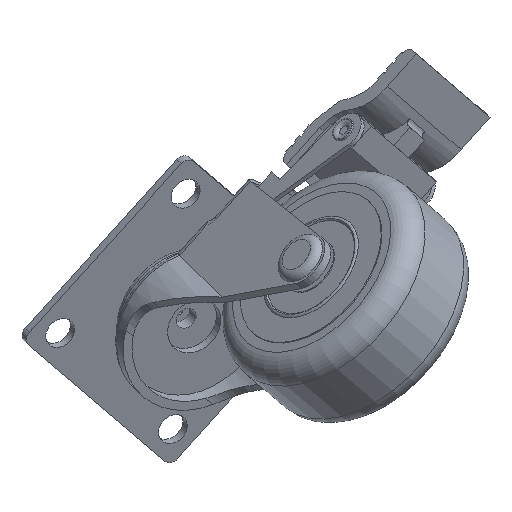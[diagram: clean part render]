
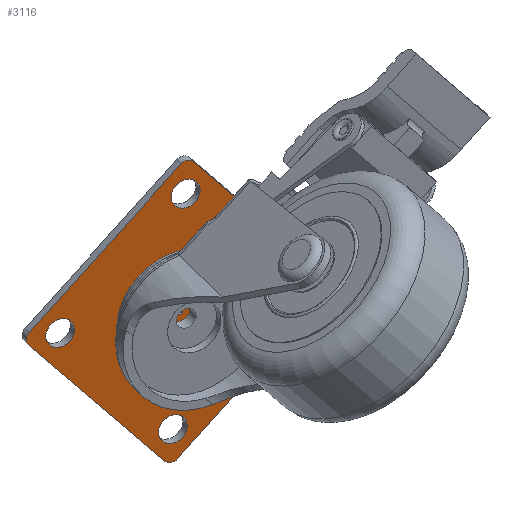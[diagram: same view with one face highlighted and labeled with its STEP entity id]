
A CAD part, top view. The second image highlights one B-rep face of the part: STEP entity #3116.
In plain terms, the highlighted planar face has unit normal (0.439, -0.433, 0.787) as drawn and (0, 0, 1) by its records, which use the part's own axes.
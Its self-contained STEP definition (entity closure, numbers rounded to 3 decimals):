
#288=LINE($,#5580,#516);
#291=LINE($,#5588,#519);
#294=LINE($,#5596,#522);
#297=LINE($,#5603,#525);
#516=VECTOR($,#4420,46.);
#519=VECTOR($,#4429,46.);
#522=VECTOR($,#4438,46.);
#525=VECTOR($,#4447,46.);
#720=PLANE($,#3493);
#850=FACE_BOUND($,#1281,.T.);
#851=FACE_BOUND($,#1282,.T.);
#852=FACE_BOUND($,#1283,.T.);
#853=FACE_BOUND($,#1284,.T.);
#854=FACE_BOUND($,#1285,.T.);
#855=FACE_BOUND($,#1286,.T.);
#1281=EDGE_LOOP($,(#2888));
#1282=EDGE_LOOP($,(#2889));
#1283=EDGE_LOOP($,(#2890));
#1284=EDGE_LOOP($,(#2891));
#1285=EDGE_LOOP($,(#2892));
#1286=EDGE_LOOP($,(#2893,#2894,#2895,#2896,#2897,#2898,#2899,#2900));
#1407=CIRCLE($,#3443,0.774);
#1426=CIRCLE($,#3474,3.25);
#1427=CIRCLE($,#3476,3.25);
#1428=CIRCLE($,#3478,3.25);
#1429=CIRCLE($,#3480,3.25);
#1430=CIRCLE($,#3482,2.);
#1431=CIRCLE($,#3485,2.);
#1432=CIRCLE($,#3488,2.);
#1433=CIRCLE($,#3491,2.);
#1687=VERTEX_POINT($,#5503);
#1710=VERTEX_POINT($,#5561);
#1711=VERTEX_POINT($,#5564);
#1712=VERTEX_POINT($,#5567);
#1713=VERTEX_POINT($,#5570);
#1714=VERTEX_POINT($,#5573);
#1715=VERTEX_POINT($,#5575);
#1716=VERTEX_POINT($,#5579);
#1717=VERTEX_POINT($,#5583);
#1718=VERTEX_POINT($,#5587);
#1719=VERTEX_POINT($,#5591);
#1720=VERTEX_POINT($,#5595);
#1721=VERTEX_POINT($,#5599);
#2072=EDGE_CURVE($,#1687,#1687,#1407,.T.);
#2095=EDGE_CURVE($,#1710,#1710,#1426,.T.);
#2096=EDGE_CURVE($,#1711,#1711,#1427,.T.);
#2097=EDGE_CURVE($,#1712,#1712,#1428,.T.);
#2098=EDGE_CURVE($,#1713,#1713,#1429,.T.);
#2100=EDGE_CURVE($,#1715,#1714,#1430,.T.);
#2102=EDGE_CURVE($,#1716,#1715,#288,.T.);
#2104=EDGE_CURVE($,#1717,#1716,#1431,.T.);
#2106=EDGE_CURVE($,#1718,#1717,#291,.T.);
#2108=EDGE_CURVE($,#1719,#1718,#1432,.T.);
#2110=EDGE_CURVE($,#1720,#1719,#294,.T.);
#2112=EDGE_CURVE($,#1721,#1720,#1433,.T.);
#2114=EDGE_CURVE($,#1714,#1721,#297,.T.);
#2888=ORIENTED_EDGE($,*,*,#2072,.T.);
#2889=ORIENTED_EDGE($,*,*,#2095,.T.);
#2890=ORIENTED_EDGE($,*,*,#2096,.T.);
#2891=ORIENTED_EDGE($,*,*,#2097,.T.);
#2892=ORIENTED_EDGE($,*,*,#2098,.T.);
#2893=ORIENTED_EDGE($,*,*,#2114,.T.);
#2894=ORIENTED_EDGE($,*,*,#2112,.T.);
#2895=ORIENTED_EDGE($,*,*,#2110,.T.);
#2896=ORIENTED_EDGE($,*,*,#2108,.T.);
#2897=ORIENTED_EDGE($,*,*,#2106,.T.);
#2898=ORIENTED_EDGE($,*,*,#2104,.T.);
#2899=ORIENTED_EDGE($,*,*,#2102,.T.);
#2900=ORIENTED_EDGE($,*,*,#2100,.T.);
#3116=ADVANCED_FACE($,(#850,#851,#852,#853,#854,#855),#720,.T.);
#3443=AXIS2_PLACEMENT_3D($,#5504,#4332,#4333);
#3474=AXIS2_PLACEMENT_3D($,#5562,#4398,#4399);
#3476=AXIS2_PLACEMENT_3D($,#5565,#4402,#4403);
#3478=AXIS2_PLACEMENT_3D($,#5568,#4406,#4407);
#3480=AXIS2_PLACEMENT_3D($,#5571,#4410,#4411);
#3482=AXIS2_PLACEMENT_3D($,#5576,#4415,#4416);
#3485=AXIS2_PLACEMENT_3D($,#5584,#4424,#4425);
#3488=AXIS2_PLACEMENT_3D($,#5592,#4433,#4434);
#3491=AXIS2_PLACEMENT_3D($,#5600,#4442,#4443);
#3493=AXIS2_PLACEMENT_3D($,#5604,#4448,#4449);
#4332=DIRECTION('center_axis',(0.,0.,-1.));
#4333=DIRECTION('ref_axis',(-1.,0.,0.));
#4398=DIRECTION('center_axis',(0.,0.,-1.));
#4399=DIRECTION('ref_axis',(-1.,0.,0.));
#4402=DIRECTION('center_axis',(0.,0.,-1.));
#4403=DIRECTION('ref_axis',(-1.,0.,0.));
#4406=DIRECTION('center_axis',(0.,0.,-1.));
#4407=DIRECTION('ref_axis',(-1.,0.,0.));
#4410=DIRECTION('center_axis',(0.,0.,-1.));
#4411=DIRECTION('ref_axis',(-1.,0.,0.));
#4415=DIRECTION('center_axis',(0.,0.,1.));
#4416=DIRECTION('ref_axis',(-1.,0.,0.));
#4420=DIRECTION($,(0.,1.,0.));
#4424=DIRECTION('center_axis',(0.,0.,1.));
#4425=DIRECTION('ref_axis',(0.,1.,0.));
#4429=DIRECTION($,(1.,0.,0.));
#4433=DIRECTION('center_axis',(0.,0.,1.));
#4434=DIRECTION('ref_axis',(1.,0.,0.));
#4438=DIRECTION($,(0.,-1.,0.));
#4442=DIRECTION('center_axis',(0.,0.,1.));
#4443=DIRECTION('ref_axis',(0.,-1.,0.));
#4447=DIRECTION($,(-1.,0.,0.));
#4448=DIRECTION('center_axis',(0.,0.,1.));
#4449=DIRECTION('ref_axis',(1.,0.,0.));
#5503=CARTESIAN_POINT('',(26.,25.395,2.));
#5504=CARTESIAN_POINT('Origin',(25.226,25.395,2.));
#5561=CARTESIAN_POINT('',(47.476,44.395,2.));
#5562=CARTESIAN_POINT('Origin',(44.226,44.395,2.));
#5564=CARTESIAN_POINT('',(47.476,6.395,2.));
#5565=CARTESIAN_POINT('Origin',(44.226,6.395,2.));
#5567=CARTESIAN_POINT('',(9.476,6.395,2.));
#5568=CARTESIAN_POINT('Origin',(6.226,6.395,2.));
#5570=CARTESIAN_POINT('',(9.476,44.395,2.));
#5571=CARTESIAN_POINT('Origin',(6.226,44.395,2.));
#5573=CARTESIAN_POINT('',(48.226,50.395,2.));
#5575=CARTESIAN_POINT('',(50.226,48.395,2.));
#5576=CARTESIAN_POINT('Origin',(48.226,48.395,2.));
#5579=CARTESIAN_POINT('',(50.226,2.395,2.));
#5580=CARTESIAN_POINT($,(50.226,48.395,2.));
#5583=CARTESIAN_POINT('',(48.226,0.395,2.));
#5584=CARTESIAN_POINT('Origin',(48.226,2.395,2.));
#5587=CARTESIAN_POINT('',(2.226,0.395,2.));
#5588=CARTESIAN_POINT($,(48.226,0.395,2.));
#5591=CARTESIAN_POINT('',(0.226,2.395,2.));
#5592=CARTESIAN_POINT('Origin',(2.226,2.395,2.));
#5595=CARTESIAN_POINT('',(0.226,48.395,2.));
#5596=CARTESIAN_POINT($,(0.226,2.395,2.));
#5599=CARTESIAN_POINT('',(2.226,50.395,2.));
#5600=CARTESIAN_POINT('Origin',(2.226,48.395,2.));
#5603=CARTESIAN_POINT($,(2.226,50.395,2.));
#5604=CARTESIAN_POINT('Origin',(25.226,25.395,2.));
